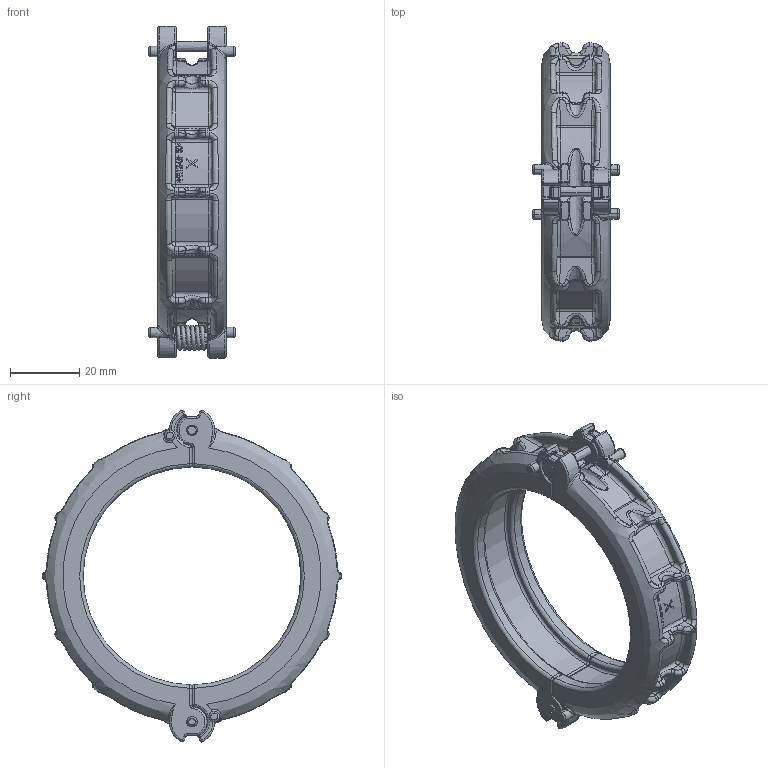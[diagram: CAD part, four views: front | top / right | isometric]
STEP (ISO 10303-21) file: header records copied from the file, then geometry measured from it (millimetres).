
FILE_DESCRIPTION(('STEP AP214'),'1');
FILE_NAME('1032270.stp','2019-03-28T05:52:16',('CAD-PIM'),('TransMagic, Inc.'),'TMR12sp0','TransMagic R12',' ');
FILE_SCHEMA(('AUTOMOTIVE_DESIGN'));
Length unit declared in the file: millimetre
Products named in the file (1): 1032270 (1)
Bounding box: 25 x 86 x 95.67 mm (x, y, z)
Volume: 34257.1 mm3; surface area: 18321.9 mm2
Topology: 1 solids, 1 shells, 1438 faces, 3666 edges, 2150 vertices
Faces by surface type: bspline 1438
Entity records: 107418 total; most frequent: CARTESIAN_POINT 41117, STYLED_ITEM 7177, PRESENTATION_STYLE_ASSIGNMENT 7177, COLOUR_RGB 7177, ORIENTED_EDGE 7176, EDGE_CURVE 3588, CURVE_STYLE 3588, DRAUGHTING_PRE_DEFINED_CURVE_FONT 3588
